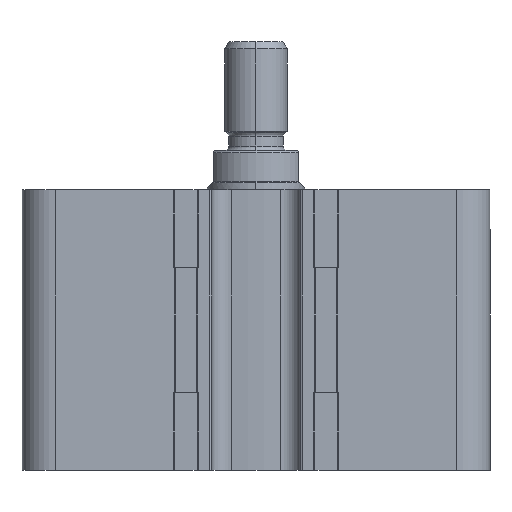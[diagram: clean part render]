
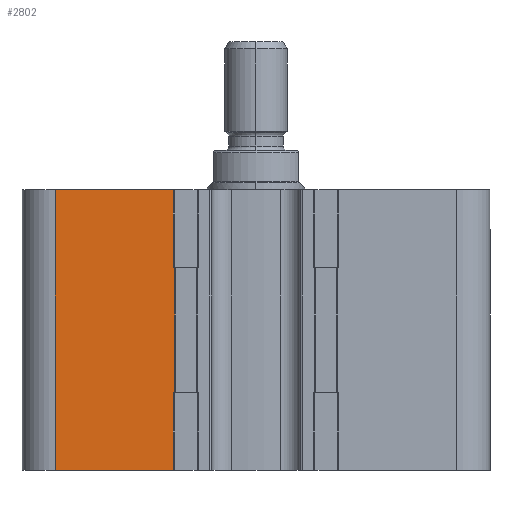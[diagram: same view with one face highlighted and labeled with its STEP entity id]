
A CAD part, left-side view. The second image highlights one B-rep face of the part: STEP entity #2802.
In plain terms, the highlighted planar face has unit normal (-1, 0, 0).
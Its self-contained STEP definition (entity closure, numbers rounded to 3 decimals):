
#1249 = EDGE_CURVE ( 'NONE', #5237, #5238, #2038, .T. ) ;
#1265 = EDGE_CURVE ( 'NONE', #5233, #5238, #2062, .T. ) ;
#1269 = EDGE_CURVE ( 'NONE', #5240, #5233, #2067, .T. ) ;
#1270 = EDGE_CURVE ( 'NONE', #5240, #7778, #2069, .T. ) ;
#1437 = EDGE_CURVE ( 'NONE', #7565, #5237, #2331, .T. ) ;
#1438 = EDGE_CURVE ( 'NONE', #7563, #7779, #2333, .T. ) ;
#2038 = LINE ( 'NONE', #6635, #2040 ) ;
#2040 = VECTOR ( 'NONE', #6634, 1000. ) ;
#2062 = LINE ( 'NONE', #6675, #2064 ) ;
#2064 = VECTOR ( 'NONE', #6676, 1000. ) ;
#2067 = LINE ( 'NONE', #6691, #2070 ) ;
#2069 = LINE ( 'NONE', #6693, #2072 ) ;
#2070 = VECTOR ( 'NONE', #6692, 1000. ) ;
#2072 = VECTOR ( 'NONE', #6694, 1000. ) ;
#2331 = LINE ( 'NONE', #2721, #2336 ) ;
#2333 = LINE ( 'NONE', #2723, #2338 ) ;
#2336 = VECTOR ( 'NONE', #2725, 1000. ) ;
#2338 = VECTOR ( 'NONE', #2726, 1000. ) ;
#2721 = CARTESIAN_POINT ( 'NONE',  ( -60., 21.2, 203.606 ) ) ;
#2723 = CARTESIAN_POINT ( 'NONE',  ( -60., 51.5, 32. ) ) ;
#2725 = DIRECTION ( 'NONE',  ( 0., 0., -1. ) ) ;
#2726 = DIRECTION ( 'NONE',  ( 0., 0., -1. ) ) ;
#2802 = ADVANCED_FACE ( 'NONE', ( #16062 ), #11142, .F. ) ;
#3330 = ORIENTED_EDGE ( 'NONE', *, *, #1438, .T. ) ;
#3331 = ORIENTED_EDGE ( 'NONE', *, *, #8899, .F. ) ;
#3332 = ORIENTED_EDGE ( 'NONE', *, *, #1270, .F. ) ;
#3333 = ORIENTED_EDGE ( 'NONE', *, *, #1269, .T. ) ;
#3334 = ORIENTED_EDGE ( 'NONE', *, *, #1265, .T. ) ;
#3335 = ORIENTED_EDGE ( 'NONE', *, *, #1249, .F. ) ;
#3336 = ORIENTED_EDGE ( 'NONE', *, *, #1437, .F. ) ;
#3337 = ORIENTED_EDGE ( 'NONE', *, *, #15584, .F. ) ;
#5129 = LINE ( 'NONE', #15448, #5133 ) ;
#5133 = VECTOR ( 'NONE', #15449, 1000. ) ;
#5233 = VERTEX_POINT ( 'NONE', #15143 ) ;
#5237 = VERTEX_POINT ( 'NONE', #15145 ) ;
#5238 = VERTEX_POINT ( 'NONE', #15146 ) ;
#5240 = VERTEX_POINT ( 'NONE', #15147 ) ;
#6634 = DIRECTION ( 'NONE',  ( 0., -1., 0. ) ) ;
#6635 = CARTESIAN_POINT ( 'NONE',  ( -60., 60., 32. ) ) ;
#6675 = CARTESIAN_POINT ( 'NONE',  ( -60., 20.875, 32. ) ) ;
#6676 = DIRECTION ( 'NONE',  ( 0., 0., 1. ) ) ;
#6691 = CARTESIAN_POINT ( 'NONE',  ( -60., 60., 0. ) ) ;
#6692 = DIRECTION ( 'NONE',  ( 0., -1., 0. ) ) ;
#6693 = CARTESIAN_POINT ( 'NONE',  ( -60., 21.2, 203.606 ) ) ;
#6694 = DIRECTION ( 'NONE',  ( 0., 0., -1. ) ) ;
#7345 = CARTESIAN_POINT ( 'NONE',  ( -60., 60., 52. ) ) ;
#7348 = DIRECTION ( 'NONE',  ( 0., -1., 0. ) ) ;
#7563 = VERTEX_POINT ( 'NONE', #15235 ) ;
#7565 = VERTEX_POINT ( 'NONE', #15236 ) ;
#7778 = VERTEX_POINT ( 'NONE', #15359 ) ;
#7779 = VERTEX_POINT ( 'NONE', #15360 ) ;
#8899 = EDGE_CURVE ( 'NONE', #7778, #7779, #5129, .T. ) ;
#10047 = LINE ( 'NONE', #7345, #10049 ) ;
#10049 = VECTOR ( 'NONE', #7348, 1000. ) ;
#11137 = CARTESIAN_POINT ( 'NONE',  ( -60., 60., 32. ) ) ;
#11142 = PLANE ( 'NONE',  #13931 ) ;
#11145 = DIRECTION ( 'NONE',  ( 1., 0., 0. ) ) ;
#11146 = DIRECTION ( 'NONE',  ( 0., 1., 0. ) ) ;
#13931 = AXIS2_PLACEMENT_3D ( 'NONE', #11137, #11145, #11146 ) ;
#14404 = EDGE_LOOP ( 'NONE', ( #3330, #3331, #3332, #3333, #3334, #3335, #3336, #3337 ) ) ;
#15143 = CARTESIAN_POINT ( 'NONE',  ( -60., 20.875, 0. ) ) ;
#15145 = CARTESIAN_POINT ( 'NONE',  ( -60., 21.2, 32. ) ) ;
#15146 = CARTESIAN_POINT ( 'NONE',  ( -60., 20.875, 32. ) ) ;
#15147 = CARTESIAN_POINT ( 'NONE',  ( -60., 21.2, 0. ) ) ;
#15235 = CARTESIAN_POINT ( 'NONE',  ( -60., 51.5, 52. ) ) ;
#15236 = CARTESIAN_POINT ( 'NONE',  ( -60., 21.2, 52. ) ) ;
#15359 = CARTESIAN_POINT ( 'NONE',  ( -60., 21.2, -20. ) ) ;
#15360 = CARTESIAN_POINT ( 'NONE',  ( -60., 51.5, -20. ) ) ;
#15448 = CARTESIAN_POINT ( 'NONE',  ( -60., 60., -20. ) ) ;
#15449 = DIRECTION ( 'NONE',  ( 0., 1., 0. ) ) ;
#15584 = EDGE_CURVE ( 'NONE', #7563, #7565, #10047, .T. ) ;
#16062 = FACE_OUTER_BOUND ( 'NONE', #14404, .T. ) ;
